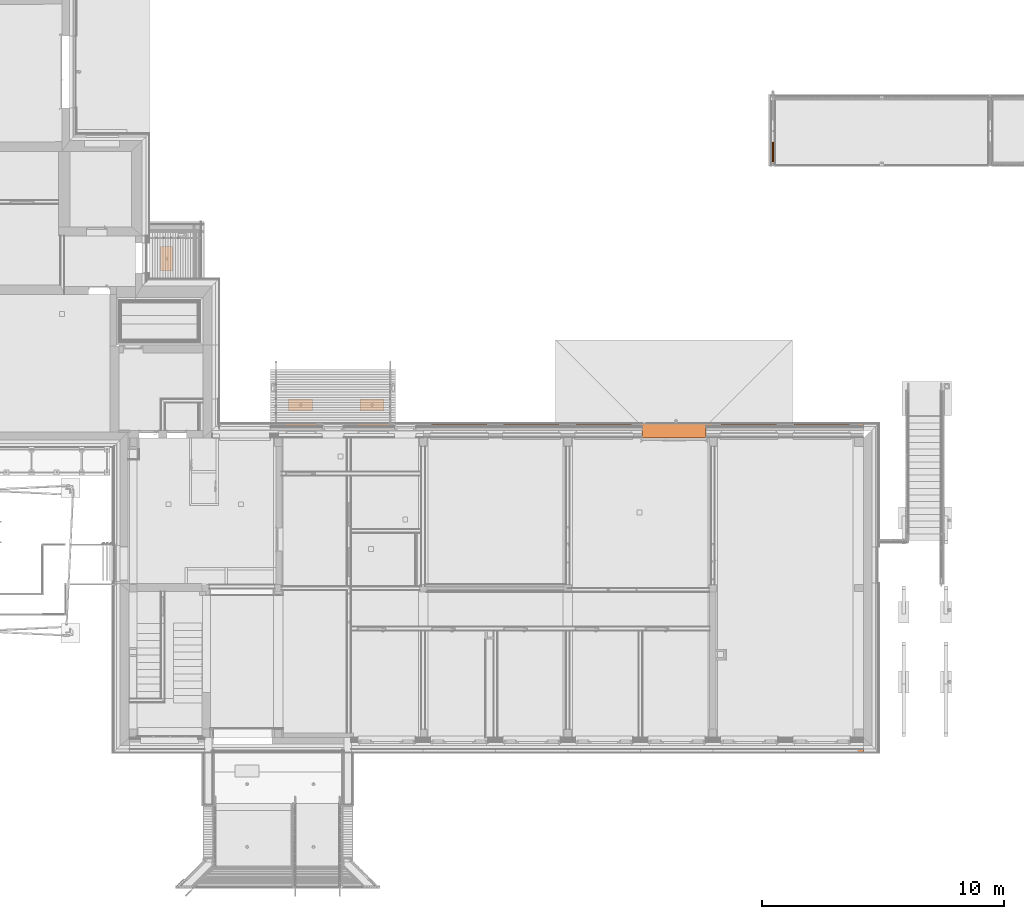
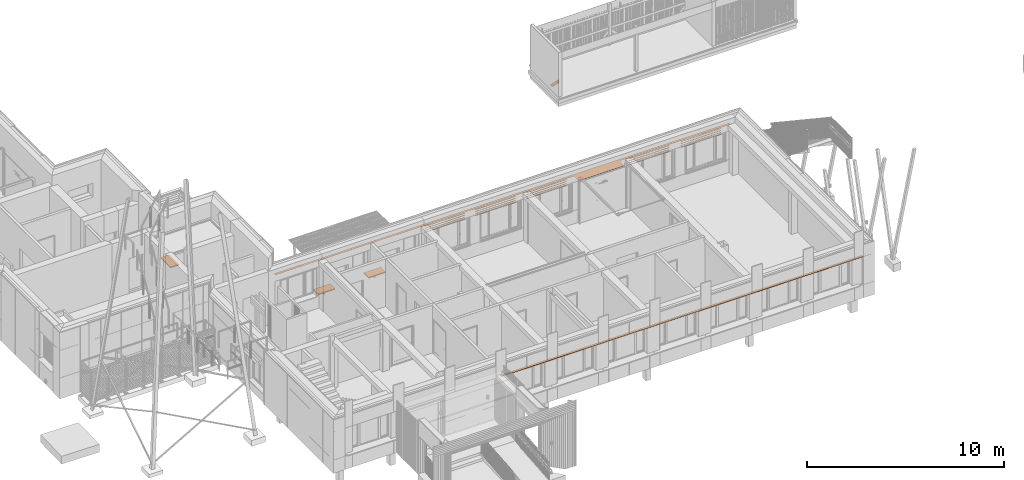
# One storey, part 351 of 418: 11 proxies.
"""IFC2X3 building model written with IfcOpenShell, lengths in millimetres."""

from ifc_helpers import new_model, entity, si_unit, converted_unit, derived_unit, money_unit, direction, frame, frame_2d, origin_with_axes, place, context, subcontext, project, spatial, polyline, rectangle, outline, extrude, clip, halfspace, faceted_brep, source, transform, mapped, material, type_object, element, save


model = new_model("IFC2X3")

# Units and contexts
model_context = context("Model", 3, precision=0.01, world=origin_with_axes(), true_north=direction((0.0, 1.0)))
body_context = subcontext(model_context, "Body", "Model", "MODEL_VIEW")
ifc_project = project(units=[si_unit("LENGTHUNIT", "METRE", prefix="MILLI"), si_unit("AREAUNIT", "SQUARE_METRE"), si_unit("VOLUMEUNIT", "CUBIC_METRE"), converted_unit("PLANEANGLEUNIT", "DEGREE", entity("IfcPlaneAngleMeasure", 0.0174532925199), si_unit("PLANEANGLEUNIT", "RADIAN"), dimensions=[0, 0, 0, 0, 0, 0, 0]), si_unit("SOLIDANGLEUNIT", "STERADIAN"), money_unit("EUR"), converted_unit("TIMEUNIT", "Year", entity("IfcTimeMeasure", 31556926.0), si_unit("TIMEUNIT", "SECOND"), dimensions=[0, 0, 1, 0, 0, 0, 0]), si_unit("MASSUNIT", "GRAM", prefix="KILO"), si_unit("THERMODYNAMICTEMPERATUREUNIT", "DEGREE_CELSIUS"), si_unit("LUMINOUSINTENSITYUNIT", "LUMEN"), si_unit("ENERGYUNIT", "JOULE", prefix="MEGA"), derived_unit("THERMALCONDUCTANCEUNIT", [(si_unit("POWERUNIT", "WATT"), 1), (si_unit("LENGTHUNIT", "METRE"), -1), (si_unit("THERMODYNAMICTEMPERATUREUNIT", "KELVIN"), -1)]), derived_unit("SPECIFICHEATCAPACITYUNIT", [(si_unit("ENERGYUNIT", "JOULE"), 1), (si_unit("MASSUNIT", "GRAM", prefix="KILO"), -1), (si_unit("THERMODYNAMICTEMPERATUREUNIT", "KELVIN"), -1)]), derived_unit("MASSDENSITYUNIT", [(si_unit("MASSUNIT", "GRAM", prefix="KILO"), 1), (si_unit("VOLUMEUNIT", "CUBIC_METRE"), -1)])], contexts=[model_context])

# Site, building, storey
site_placement = place(None, origin_with_axes())
site = spatial("IfcSite", under=ifc_project, at=site_placement, Name="Paldiski mnt 245/1, Tallinn, Harjumaa", CompositionType="COMPLEX")
building_placement = place(site_placement, origin_with_axes())
building = spatial("IfcBuilding", under=site, at=building_placement, Name="RKAS Hoone üldnimetus (kasutust iseloomustav) -> IFC Project Manager -> SOLIBRI", CompositionType="ELEMENT")
storey_placement = place(building_placement, origin_with_axes())
storey = spatial("IfcBuildingStorey", under=building, at=storey_placement, Name="Esimene korrus", CompositionType="ELEMENT", Elevation=0.0)

# Proxies
building_element_proxy_type_1 = type_object("IfcBuildingElementProxyType", Name="Solar Shade Straight 17", PredefinedType="NOTDEFINED")
shared_shape_1 = source(origin_with_axes(), body_context, "Body", "Brep", [
    faceted_brep([(-50.0, -24.0727513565, 78.7867965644), (-2350.0, -24.0727513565, 78.7867965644), (-2350.0, -34.6793530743, 91.7504208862), (-50.0, -34.6793530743, 91.7504208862), (-50.0, -14.6446609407, 64.6446609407), (-2350.0, -14.6446609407, 64.6446609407), (-2350.0, -28.7867965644, 74.0727513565), (-2350.0, -41.7504208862, 84.6793530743), (-2350.0, -65.3206469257, 108.249579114), (-2350.0, -75.9272486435, 121.213203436), (-2350.0, -85.3553390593, 135.355339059), (-2350.0, -71.2132034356, 125.927248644), (-2350.0, -58.2495791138, 115.320646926), (-50.0, -58.2495791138, 115.320646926), (-50.0, -71.2132034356, 125.927248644), (-50.0, -85.3553390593, 135.355339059), (-50.0, -75.9272486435, 121.213203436), (-50.0, -65.3206469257, 108.249579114), (-50.0, -41.7504208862, 84.6793530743), (-50.0, -28.7867965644, 74.0727513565)], [[[0, 1, 2, 3]], [[4, 5, 1, 0]], [[1, 5, 6, 7, 8, 9, 10, 11, 12, 2]], [[3, 2, 12, 13]], [[0, 3, 13, 14, 15, 16, 17, 18, 19, 4]], [[19, 6, 5, 4]], [[18, 7, 6, 19]], [[17, 8, 7, 18]], [[16, 9, 8, 17]], [[15, 10, 9, 16]], [[14, 11, 10, 15]], [[13, 12, 11, 14]]]),
    faceted_brep([(-50.0, -24.0727513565, 203.786796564), (-2350.0, -24.0727513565, 203.786796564), (-2350.0, -34.6793530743, 216.750420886), (-50.0, -34.6793530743, 216.750420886), (-50.0, -14.6446609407, 189.644660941), (-2350.0, -14.6446609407, 189.644660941), (-2350.0, -28.7867965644, 199.072751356), (-2350.0, -41.7504208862, 209.679353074), (-2350.0, -65.3206469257, 233.249579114), (-2350.0, -75.9272486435, 246.213203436), (-2350.0, -85.3553390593, 260.355339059), (-2350.0, -71.2132034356, 250.927248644), (-2350.0, -58.2495791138, 240.320646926), (-50.0, -58.2495791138, 240.320646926), (-50.0, -71.2132034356, 250.927248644), (-50.0, -85.3553390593, 260.355339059), (-50.0, -75.9272486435, 246.213203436), (-50.0, -65.3206469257, 233.249579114), (-50.0, -41.7504208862, 209.679353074), (-50.0, -28.7867965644, 199.072751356)], [[[0, 1, 2, 3]], [[4, 5, 1, 0]], [[1, 5, 6, 7, 8, 9, 10, 11, 12, 2]], [[3, 2, 12, 13]], [[0, 3, 13, 14, 15, 16, 17, 18, 19, 4]], [[19, 6, 5, 4]], [[18, 7, 6, 19]], [[17, 8, 7, 18]], [[16, 9, 8, 17]], [[15, 10, 9, 16]], [[14, 11, 10, 15]], [[13, 12, 11, 14]]]),
    faceted_brep([(-50.0, -24.0727513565, 328.786796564), (-2350.0, -24.0727513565, 328.786796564), (-2350.0, -34.6793530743, 341.750420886), (-50.0, -34.6793530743, 341.750420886), (-50.0, -14.6446609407, 314.644660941), (-2350.0, -14.6446609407, 314.644660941), (-2350.0, -28.7867965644, 324.072751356), (-2350.0, -41.7504208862, 334.679353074), (-2350.0, -65.3206469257, 358.249579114), (-2350.0, -75.9272486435, 371.213203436), (-2350.0, -85.3553390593, 385.355339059), (-2350.0, -71.2132034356, 375.927248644), (-2350.0, -58.2495791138, 365.320646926), (-50.0, -58.2495791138, 365.320646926), (-50.0, -71.2132034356, 375.927248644), (-50.0, -85.3553390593, 385.355339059), (-50.0, -75.9272486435, 371.213203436), (-50.0, -65.3206469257, 358.249579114), (-50.0, -41.7504208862, 334.679353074), (-50.0, -28.7867965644, 324.072751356)], [[[0, 1, 2, 3]], [[4, 5, 1, 0]], [[1, 5, 6, 7, 8, 9, 10, 11, 12, 2]], [[3, 2, 12, 13]], [[0, 3, 13, 14, 15, 16, 17, 18, 19, 4]], [[19, 6, 5, 4]], [[18, 7, 6, 19]], [[17, 8, 7, 18]], [[16, 9, 8, 17]], [[15, 10, 9, 16]], [[14, 11, 10, 15]], [[13, 12, 11, 14]]]),
    faceted_brep([(-50.0, -24.0727513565, 453.786796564), (-2350.0, -24.0727513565, 453.786796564), (-2350.0, -34.6793530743, 466.750420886), (-50.0, -34.6793530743, 466.750420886), (-50.0, -14.6446609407, 439.644660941), (-2350.0, -14.6446609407, 439.644660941), (-2350.0, -28.7867965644, 449.072751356), (-2350.0, -41.7504208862, 459.679353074), (-2350.0, -65.3206469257, 483.249579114), (-2350.0, -75.9272486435, 496.213203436), (-2350.0, -85.3553390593, 510.355339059), (-2350.0, -71.2132034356, 500.927248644), (-2350.0, -58.2495791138, 490.320646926), (-50.0, -58.2495791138, 490.320646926), (-50.0, -71.2132034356, 500.927248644), (-50.0, -85.3553390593, 510.355339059), (-50.0, -75.9272486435, 496.213203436), (-50.0, -65.3206469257, 483.249579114), (-50.0, -41.7504208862, 459.679353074), (-50.0, -28.7867965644, 449.072751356)], [[[0, 1, 2, 3]], [[4, 5, 1, 0]], [[1, 5, 6, 7, 8, 9, 10, 11, 12, 2]], [[3, 2, 12, 13]], [[0, 3, 13, 14, 15, 16, 17, 18, 19, 4]], [[19, 6, 5, 4]], [[18, 7, 6, 19]], [[17, 8, 7, 18]], [[16, 9, 8, 17]], [[15, 10, 9, 16]], [[14, 11, 10, 15]], [[13, 12, 11, 14]]]),
])
for number, where, z_axis, x_axis in (
    (1, (-29770.0, 456.966991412, 1999.54563517), (0.0, 0.0, 1.0), (1.0, 0.0, 0.0)),
    (2, (-26780.0, 456.966991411, 1999.54563517), (0.0, 0.0, 1.0), (1.0, 0.0, 0.0)),
    (3, (-32750.0, 456.966991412, 1999.64466094), (0.0, 0.0, 1.0), (1.0, 0.0, 0.0)),
    (4, (-20770.0, 456.966991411, 1999.54563517), (0.0, 0.0, 1.0), (1.0, 0.0, 0.0)),
    (5, (-17750.0, 456.966991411, 1999.54563517), (0.0, 0.0, 1.0), (1.0, 0.0, 0.0)),
):
    element("IfcBuildingElementProxy", number, at=place(storey_placement, frame(where, z_axis=z_axis, x_axis=x_axis)), inside=storey, type_object=building_element_proxy_type_1, Name="Päikesezalusii", context=body_context, shape_type="MappedRepresentation", body=[
        mapped(shared_shape_1, transform((0.0, 0.0, 0.0))),
    ])
ifc_material_1 = material(Name="Raud")
building_element_proxy_type_2 = type_object("IfcBuildingElementProxyType", Name="Jalatsipuhastusrest", PredefinedType="NOTDEFINED")
shared_shape_2 = source(origin_with_axes(), body_context, "Body", "Brep", [
    faceted_brep([(5.0, 995.0, 280.0), (5.0, 5.0, 280.0), (5.0, 5.0, 300.0), (5.0, 995.0, 300.0), (495.0, 995.0, 280.0), (495.0, 5.0, 280.0), (495.0, 5.0, 300.0), (495.0, 995.0, 300.0)], [[[0, 1, 2, 3]], [[0, 4, 5, 1]], [[1, 5, 6, 2]], [[3, 2, 6, 7]], [[4, 0, 3, 7]], [[5, 4, 7, 6]]]),
    faceted_brep([(0.0, 1000.0, 240.0), (0.0, 0.0, 240.0), (0.0, 0.0, 300.0), (0.0, 1000.0, 300.0), (500.0, 1000.0, 240.0), (500.0, 0.0, 240.0), (5.0, 995.0, 240.0), (5.0, 5.0, 240.0), (495.0, 5.0, 240.0), (495.0, 995.0, 240.0), (500.0, 0.0, 300.0), (500.0, 1000.0, 300.0), (5.0, 995.0, 300.0), (495.0, 995.0, 300.0), (495.0, 5.0, 300.0), (5.0, 5.0, 300.0)], [[[0, 1, 2, 3]], [[0, 4, 5, 1], [6, 7, 8, 9]], [[1, 5, 10, 2]], [[3, 2, 10, 11], [12, 13, 14, 15]], [[4, 0, 3, 11]], [[5, 4, 11, 10]], [[7, 6, 12, 15]], [[8, 7, 15, 14]], [[9, 8, 14, 13]], [[6, 9, 13, 12]]]),
    faceted_brep([(0.0, 1000.0, 240.0), (0.0, 0.0, 240.0), (0.0, 0.0, 245.0), (0.0, 1000.0, 245.0), (500.0, 1000.0, 240.0), (500.0, 0.0, 240.0), (195.0, 495.1881235, 240.0), (196.67114717, 485.71057695, 240.0), (199.96266455, 476.66720728, 240.0), (204.77454104, 468.33279271, 240.0), (210.96057022, 460.96057022, 240.0), (218.33279272, 454.77454104, 240.0), (226.66720729, 449.96266454, 240.0), (235.71057695, 446.67114717, 240.0), (245.18812351, 445.0, 240.0), (254.8118765, 445.0, 240.0), (264.28942305, 446.67114717, 240.0), (273.33279272, 449.96266454, 240.0), (281.66720729, 454.77454104, 240.0), (289.03942978, 460.96057022, 240.0), (295.22545896, 468.33279271, 240.0), (300.03733546, 476.66720728, 240.0), (303.32885283, 485.71057695, 240.0), (305.0, 495.1881235, 240.0), (305.0, 500.0, 240.0), (305.0, 504.81187649, 240.0), (303.32885283, 514.28942305, 240.0), (300.03733546, 523.33279271, 240.0), (295.22545896, 531.66720728, 240.0), (289.03942978, 539.03942978, 240.0), (281.66720729, 545.22545896, 240.0), (273.33279272, 550.03733545, 240.0), (264.28942305, 553.32885283, 240.0), (254.8118765, 555.0, 240.0), (245.18812351, 555.0, 240.0), (235.71057695, 553.32885283, 240.0), (226.66720729, 550.03733545, 240.0), (218.33279272, 545.22545896, 240.0), (210.96057022, 539.03942978, 240.0), (204.77454104, 531.66720728, 240.0), (199.96266455, 523.33279271, 240.0), (196.67114717, 514.28942305, 240.0), (195.0, 504.81187649, 240.0), (500.0, 0.0, 245.0), (500.0, 1000.0, 245.0), (195.0, 495.1881235, 245.0), (195.0, 504.81187649, 245.0), (196.67114717, 514.28942305, 245.0), (199.96266455, 523.33279271, 245.0), (204.77454104, 531.66720728, 245.0), (210.96057022, 539.03942978, 245.0), (218.33279272, 545.22545896, 245.0), (226.66720729, 550.03733545, 245.0), (235.71057695, 553.32885283, 245.0), (245.18812351, 555.0, 245.0), (254.8118765, 555.0, 245.0), (264.28942305, 553.32885283, 245.0), (273.33279272, 550.03733545, 245.0), (281.66720729, 545.22545896, 245.0), (289.03942978, 539.03942978, 245.0), (295.22545896, 531.66720728, 245.0), (300.03733546, 523.33279271, 245.0), (303.32885283, 514.28942305, 245.0), (305.0, 504.81187649, 245.0), (305.0, 500.0, 245.0), (305.0, 495.1881235, 245.0), (303.32885283, 485.71057695, 245.0), (300.03733546, 476.66720728, 245.0), (295.22545896, 468.33279271, 245.0), (289.03942978, 460.96057022, 245.0), (281.66720729, 454.77454104, 245.0), (273.33279272, 449.96266454, 245.0), (264.28942305, 446.67114717, 245.0), (254.8118765, 445.0, 245.0), (245.18812351, 445.0, 245.0), (235.71057695, 446.67114717, 245.0), (226.66720729, 449.96266454, 245.0), (218.33279272, 454.77454104, 245.0), (210.96057022, 460.96057022, 245.0), (204.77454104, 468.33279271, 245.0), (199.96266455, 476.66720728, 245.0), (196.67114717, 485.71057695, 245.0)], [[[0, 1, 2, 3]], [[0, 4, 5, 1], [6, 7, 8, 9, 10, 11, 12, 13, 14, 15, 16, 17, 18, 19, 20, 21, 22, 23, 24, 25, 26, 27, 28, 29, 30, 31, 32, 33, 34, 35, 36, 37, 38, 39, 40, 41, 42]], [[1, 5, 43, 2]], [[3, 2, 43, 44], [45, 46, 47, 48, 49, 50, 51, 52, 53, 54, 55, 56, 57, 58, 59, 60, 61, 62, 63, 64, 65, 66, 67, 68, 69, 70, 71, 72, 73, 74, 75, 76, 77, 78, 79, 80, 81]], [[4, 0, 3, 44]], [[5, 4, 44, 43]], [[7, 6, 45, 81]], [[8, 7, 81, 80]], [[9, 8, 80, 79]], [[10, 9, 79, 78]], [[11, 10, 78, 77]], [[12, 11, 77, 76]], [[13, 12, 76, 75]], [[14, 13, 75, 74]], [[15, 14, 74, 73]], [[16, 15, 73, 72]], [[17, 16, 72, 71]], [[18, 17, 71, 70]], [[19, 18, 70, 69]], [[20, 19, 69, 68]], [[21, 20, 68, 67]], [[22, 21, 67, 66]], [[23, 22, 66, 65]], [[24, 23, 65, 64]], [[25, 24, 64, 63]], [[26, 25, 63, 62]], [[27, 26, 62, 61]], [[28, 27, 61, 60]], [[29, 28, 60, 59]], [[30, 29, 59, 58]], [[31, 30, 58, 57]], [[32, 31, 57, 56]], [[33, 32, 56, 55]], [[34, 33, 55, 54]], [[35, 34, 54, 53]], [[36, 35, 53, 52]], [[37, 36, 52, 51]], [[38, 37, 51, 50]], [[39, 38, 50, 49]], [[40, 39, 49, 48]], [[41, 40, 48, 47]], [[42, 41, 47, 46]], [[6, 42, 46, 45]]]),
    faceted_brep([(305.0, 500.0, 0.0), (303.125920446, 485.764952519, 0.0), (297.631397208, 472.5, 0.0), (288.890872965, 461.109127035, 0.0), (277.5, 452.368602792, 0.0), (264.235047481, 446.874079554, 0.0), (250.0, 445.0, 0.0), (235.764952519, 446.874079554, 0.0), (222.5, 452.368602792, 0.0), (211.109127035, 461.109127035, 0.0), (202.368602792, 472.5, 0.0), (196.874079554, 485.764952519, 0.0), (195.0, 500.0, 0.0), (196.874079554, 514.235047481, 0.0), (202.368602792, 527.5, 0.0), (211.109127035, 538.890872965, 0.0), (222.5, 547.631397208, 0.0), (235.764952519, 553.125920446, 0.0), (250.0, 555.0, 0.0), (264.235047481, 553.125920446, 0.0), (277.5, 547.631397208, 0.0), (288.890872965, 538.890872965, 0.0), (297.631397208, 527.5, 0.0), (303.125920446, 514.235047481, 0.0), (293.301270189, 475.0, 0.0), (298.296291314, 487.059047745, 0.0), (300.0, 500.0, 0.0), (298.296291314, 512.940952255, 0.0), (293.301270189, 525.0, 0.0), (285.355339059, 535.355339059, 0.0), (275.0, 543.301270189, 0.0), (262.940952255, 548.296291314, 0.0), (250.0, 550.0, 0.0), (237.059047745, 548.296291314, 0.0), (225.0, 543.301270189, 0.0), (214.644660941, 535.355339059, 0.0), (206.698729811, 525.0, 0.0), (201.703708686, 512.940952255, 0.0), (200.0, 500.0, 0.0), (201.703708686, 487.059047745, 0.0), (206.698729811, 475.0, 0.0), (214.644660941, 464.644660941, 0.0), (225.0, 456.698729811, 0.0), (237.059047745, 451.703708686, 0.0), (250.0, 450.0, 0.0), (262.940952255, 451.703708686, 0.0), (275.0, 456.698729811, 0.0), (285.355339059, 464.644660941, 0.0), (303.125920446, 485.764952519, 240.0), (305.0, 500.0, 240.0), (297.631397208, 472.5, 240.0), (288.890872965, 461.109127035, 240.0), (277.5, 452.368602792, 240.0), (264.235047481, 446.874079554, 240.0), (250.0, 445.0, 240.0), (235.764952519, 446.874079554, 240.0), (222.5, 452.368602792, 240.0), (211.109127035, 461.109127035, 240.0), (202.368602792, 472.5, 240.0), (196.874079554, 485.764952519, 240.0), (195.0, 500.0, 240.0), (196.874079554, 514.235047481, 240.0), (202.368602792, 527.5, 240.0), (211.109127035, 538.890872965, 240.0), (222.5, 547.631397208, 240.0), (235.764952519, 553.125920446, 240.0), (250.0, 555.0, 240.0), (264.235047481, 553.125920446, 240.0), (277.5, 547.631397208, 240.0), (288.890872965, 538.890872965, 240.0), (297.631397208, 527.5, 240.0), (303.125920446, 514.235047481, 240.0), (293.301270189, 475.0, 240.0), (298.296291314, 487.059047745, 240.0), (300.0, 500.0, 240.0), (298.296291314, 512.940952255, 240.0), (293.301270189, 525.0, 240.0), (285.355339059, 535.355339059, 240.0), (275.0, 543.301270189, 240.0), (262.940952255, 548.296291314, 240.0), (250.0, 550.0, 240.0), (237.059047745, 548.296291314, 240.0), (225.0, 543.301270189, 240.0), (214.644660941, 535.355339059, 240.0), (206.698729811, 525.0, 240.0), (201.703708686, 512.940952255, 240.0), (200.0, 500.0, 240.0), (201.703708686, 487.059047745, 240.0), (206.698729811, 475.0, 240.0), (214.644660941, 464.644660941, 240.0), (225.0, 456.698729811, 240.0), (237.059047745, 451.703708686, 240.0), (250.0, 450.0, 240.0), (262.940952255, 451.703708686, 240.0), (275.0, 456.698729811, 240.0), (285.355339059, 464.644660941, 240.0)], [[[0, 1, 2, 3, 4, 5, 6, 7, 8, 9, 10, 11, 12, 13, 14, 15, 16, 17, 18, 19, 20, 21, 22, 23], [24, 25, 26, 27, 28, 29, 30, 31, 32, 33, 34, 35, 36, 37, 38, 39, 40, 41, 42, 43, 44, 45, 46, 47]], [[48, 1, 0, 49]], [[50, 2, 1, 48]], [[51, 3, 2, 50]], [[52, 4, 3, 51]], [[53, 5, 4, 52]], [[54, 6, 5, 53]], [[55, 7, 6, 54]], [[56, 8, 7, 55]], [[57, 9, 8, 56]], [[58, 10, 9, 57]], [[59, 11, 10, 58]], [[60, 12, 11, 59]], [[61, 13, 12, 60]], [[62, 14, 13, 61]], [[63, 15, 14, 62]], [[64, 16, 15, 63]], [[65, 17, 16, 64]], [[66, 18, 17, 65]], [[67, 19, 18, 66]], [[68, 20, 19, 67]], [[69, 21, 20, 68]], [[70, 22, 21, 69]], [[71, 23, 22, 70]], [[49, 0, 23, 71]], [[72, 73, 25, 24]], [[73, 74, 26, 25]], [[74, 75, 27, 26]], [[75, 76, 28, 27]], [[76, 77, 29, 28]], [[77, 78, 30, 29]], [[78, 79, 31, 30]], [[79, 80, 32, 31]], [[80, 81, 33, 32]], [[81, 82, 34, 33]], [[82, 83, 35, 34]], [[83, 84, 36, 35]], [[84, 85, 37, 36]], [[85, 86, 38, 37]], [[86, 87, 39, 38]], [[87, 88, 40, 39]], [[88, 89, 41, 40]], [[89, 90, 42, 41]], [[90, 91, 43, 42]], [[91, 92, 44, 43]], [[92, 93, 45, 44]], [[93, 94, 46, 45]], [[94, 95, 47, 46]], [[95, 72, 24, 47]], [[50, 48, 49, 71, 70, 69, 68, 67, 66, 65, 64, 63, 62, 61, 60, 59, 58, 57, 56, 55, 54, 53, 52, 51], [76, 75, 74, 73, 72, 95, 94, 93, 92, 91, 90, 89, 88, 87, 86, 85, 84, 83, 82, 81, 80, 79, 78, 77]]]),
])
for number, where, z_axis, x_axis in (
    (6, (-41014.9999974, 1501.99999725, -320.0), (0.0, 0.0, 1.0), (0.0, -1.0, 0.0)),
    (7, (-38056.3787978, 1501.99999725, -320.0), (0.0, 0.0, 1.0), (0.0, -1.0, 0.0)),
    (8, (-46310.0000033, 6809.82867818, -320.0), (0.0, 0.0, 1.0), (1.0, 0.0, 0.0)),
):
    element("IfcBuildingElementProxy", number, at=place(storey_placement, frame(where, z_axis=z_axis, x_axis=x_axis)), inside=storey, type_object=building_element_proxy_type_2, material=ifc_material_1, Name="Jalatsipuhastusrest", context=body_context, shape_type="MappedRepresentation", body=[
        mapped(shared_shape_2, transform((0.0, 0.0, 0.0))),
    ])
ifc_material_2 = material(Name="Puit konstruktsioon")
building_element_proxy_type_3 = type_object("IfcBuildingElementProxyType", Name="Puit konstruktsioon 50 x 150", PredefinedType="NOTDEFINED")
proxy_1_placement = place(storey_placement, frame((-20974.2718012, 12132.8616487, -810.0), z_axis=(0.0, 0.0, 1.0), x_axis=(-1.0, 0.0, 0.0)))
element("IfcBuildingElementProxy", 9, at=proxy_1_placement, inside=storey, type_object=building_element_proxy_type_3, material=ifc_material_2, Name="Puitpruss 150x50 mm", context=body_context, shape_type="Clipping", body=[
    clip(clip(extrude(rectangle(XDim=150.0, YDim=50.0, at=frame_2d((-75.0, 0.0), x_axis=(1.0, 0.0))), frame((0.0, -150.0, -150.0), z_axis=(0.0, 0.707106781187, 0.707106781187), x_axis=(0.0, -0.707106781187, 0.707106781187)), (0.0, 0.0, 1.0), 1574.11401019), halfspace(frame((0.0, 0.0, 0.0), z_axis=(0.0, 0.0, 1.0), x_axis=(0.0, -1.0, 0.0)), True)), halfspace(frame((0.0, 813.066690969, 0.0), z_axis=(0.0, -1.0, 0.0), x_axis=(0.0, 0.0, -1.0)), True)),
])
ifc_material_3 = material(Name="Cembrit_C060")
building_element_proxy_type_4 = type_object("IfcBuildingElementProxyType", Name="Cembrit_C060 8", PredefinedType="NOTDEFINED")
proxy_2_placement = place(storey_placement, frame((-38420.0000085, -13130.0843011, 2560.0), z_axis=(0.0, 0.0, 1.0), x_axis=(1.0, 0.0, 0.0)))
element("IfcBuildingElementProxy", 10, at=proxy_2_placement, inside=storey, type_object=building_element_proxy_type_4, material=ifc_material_3, Name="Cembrit C060", context=body_context, shape_type="SweptSolid", body=[
    extrude(outline(polyline([(0.0, 0.0), (21190.0000085, -4.7428727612e-10), (21190.0000085, 140.0), (0.0, 140.0), (0.0, 0.0)])), frame((0.0, 0.0, -8.0), z_axis=(0.0, 0.0, 1.0), x_axis=(1.0, 0.0, 0.0)), (0.0, 0.0, 1.0), 8.0),
])
proxy_3_placement = place(storey_placement, frame((-43880.5504586, 370.000000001, 2560.0), z_axis=(0.0, 0.0, 1.0), x_axis=(1.0, 0.0, 0.0)))
element("IfcBuildingElementProxy", 11, at=proxy_3_placement, inside=storey, type_object=building_element_proxy_type_4, material=ifc_material_3, Name="Cembrit C060", context=body_context, shape_type="SweptSolid", body=[
    extrude(outline(polyline([(0.0, 0.0), (17490.5504586, -3.8369307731e-10), (17490.5504586, -479.999994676), (20140.5504586, -479.999994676), (20140.5504586, -4.47641923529e-10), (26650.5504586, -5.98632254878e-10), (26650.5504586, 140.000116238), (0.0, 140.000116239), (0.0, 0.0)])), frame((0.0, 0.0, -8.0), z_axis=(0.0, 0.0, 1.0), x_axis=(1.0, 0.0, 0.0)), (0.0, 0.0, 1.0), 8.0),
])

save(model, "model.ifc")
